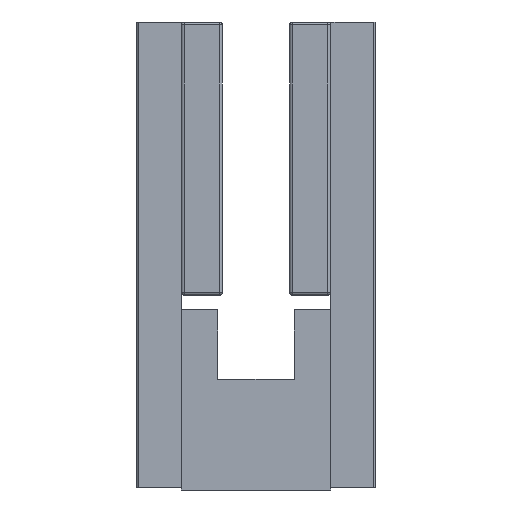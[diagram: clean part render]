
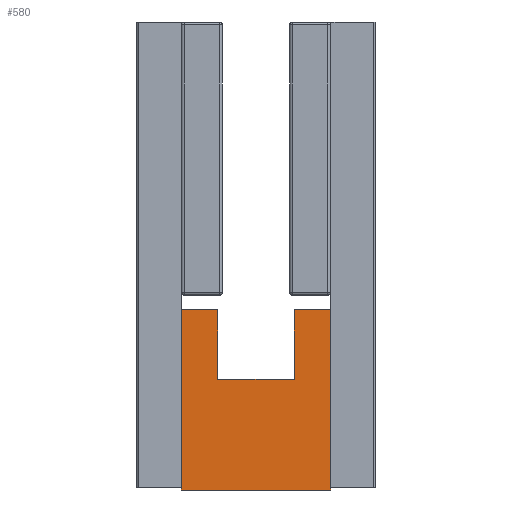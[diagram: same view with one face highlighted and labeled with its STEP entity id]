
A CAD part, left-side view. The second image highlights one B-rep face of the part: STEP entity #580.
In plain terms, the highlighted planar face has unit normal (-1, 0, 0).
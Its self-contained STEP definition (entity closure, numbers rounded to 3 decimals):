
#82 = CARTESIAN_POINT ( 'NONE',  ( -35.6, 2.575, 8.1 ) ) ;
#202 = ORIENTED_EDGE ( 'NONE', *, *, #3362, .F. ) ;
#290 = CARTESIAN_POINT ( 'NONE',  ( -35.6, -2.575, 3.4 ) ) ;
#376 = VERTEX_POINT ( 'NONE', #4822 ) ;
#505 = EDGE_CURVE ( 'NONE', #3587, #4986, #1902, .T. ) ;
#546 = LINE ( 'NONE', #2624, #2207 ) ;
#580 = ADVANCED_FACE ( 'NONE', ( #3822 ), #855, .F. ) ;
#678 = EDGE_CURVE ( 'NONE', #4726, #4922, #2348, .T. ) ;
#766 = ORIENTED_EDGE ( 'NONE', *, *, #2047, .T. ) ;
#801 = AXIS2_PLACEMENT_3D ( 'NONE', #870, #2092, #4965 ) ;
#855 = PLANE ( 'NONE',  #801 ) ;
#870 = CARTESIAN_POINT ( 'NONE',  ( -35.6, -5.075, 3.9 ) ) ;
#1241 = CARTESIAN_POINT ( 'NONE',  ( -35.6, -2.575, 8.1 ) ) ;
#1297 = CARTESIAN_POINT ( 'NONE',  ( -35.6, -5.075, -4.1 ) ) ;
#1626 = DIRECTION ( 'NONE',  ( 0., 0., -1. ) ) ;
#1685 = EDGE_CURVE ( 'NONE', #3587, #4210, #1896, .T. ) ;
#1733 = DIRECTION ( 'NONE',  ( 0., 1., 0. ) ) ;
#1754 = CARTESIAN_POINT ( 'NONE',  ( -35.6, -2.575, 8.1 ) ) ;
#1763 = VECTOR ( 'NONE', #3691, 1000. ) ;
#1879 = DIRECTION ( 'NONE',  ( 0., -1., 0. ) ) ;
#1896 = LINE ( 'NONE', #1754, #3238 ) ;
#1902 = LINE ( 'NONE', #1241, #2738 ) ;
#1997 = CARTESIAN_POINT ( 'NONE',  ( -35.6, 5.075, 3.9 ) ) ;
#2008 = EDGE_CURVE ( 'NONE', #3268, #2440, #3104, .T. ) ;
#2047 = EDGE_CURVE ( 'NONE', #376, #4922, #4446, .T. ) ;
#2092 = DIRECTION ( 'NONE',  ( 1., 0., 0. ) ) ;
#2207 = VECTOR ( 'NONE', #1879, 1000. ) ;
#2327 = ORIENTED_EDGE ( 'NONE', *, *, #2008, .F. ) ;
#2332 = CARTESIAN_POINT ( 'NONE',  ( -35.6, 2.575, 8.1 ) ) ;
#2348 = LINE ( 'NONE', #1297, #4396 ) ;
#2440 = VERTEX_POINT ( 'NONE', #5159 ) ;
#2568 = ORIENTED_EDGE ( 'NONE', *, *, #505, .F. ) ;
#2624 = CARTESIAN_POINT ( 'NONE',  ( -35.6, 5.075, 8.1 ) ) ;
#2660 = VECTOR ( 'NONE', #1626, 1000. ) ;
#2709 = CARTESIAN_POINT ( 'NONE',  ( -35.6, 5.075, -4.1 ) ) ;
#2738 = VECTOR ( 'NONE', #4052, 1000. ) ;
#2779 = ORIENTED_EDGE ( 'NONE', *, *, #1685, .T. ) ;
#2783 = CARTESIAN_POINT ( 'NONE',  ( -35.6, -5.075, 8.1 ) ) ;
#2840 = CARTESIAN_POINT ( 'NONE',  ( -35.6, -2.575, 3.4 ) ) ;
#2843 = VECTOR ( 'NONE', #3287, 1000. ) ;
#2869 = CARTESIAN_POINT ( 'NONE',  ( -35.6, -5.075, 3.9 ) ) ;
#3104 = LINE ( 'NONE', #2332, #3428 ) ;
#3121 = EDGE_CURVE ( 'NONE', #4986, #4726, #5160, .T. ) ;
#3191 = DIRECTION ( 'NONE',  ( 0., 0., -1. ) ) ;
#3204 = ORIENTED_EDGE ( 'NONE', *, *, #3121, .F. ) ;
#3238 = VECTOR ( 'NONE', #4211, 1000. ) ;
#3268 = VERTEX_POINT ( 'NONE', #82 ) ;
#3287 = DIRECTION ( 'NONE',  ( 0., -1., 0. ) ) ;
#3362 = EDGE_CURVE ( 'NONE', #376, #3268, #546, .T. ) ;
#3428 = VECTOR ( 'NONE', #3191, 1000. ) ;
#3532 = ORIENTED_EDGE ( 'NONE', *, *, #4325, .F. ) ;
#3587 = VERTEX_POINT ( 'NONE', #5176 ) ;
#3691 = DIRECTION ( 'NONE',  ( 0., 0., -1. ) ) ;
#3822 = FACE_OUTER_BOUND ( 'NONE', #5291, .T. ) ;
#3889 = CARTESIAN_POINT ( 'NONE',  ( -35.6, -5.075, -4.1 ) ) ;
#4052 = DIRECTION ( 'NONE',  ( 0., -1., 0. ) ) ;
#4210 = VERTEX_POINT ( 'NONE', #290 ) ;
#4211 = DIRECTION ( 'NONE',  ( 0., 0., -1. ) ) ;
#4325 = EDGE_CURVE ( 'NONE', #2440, #4210, #4893, .T. ) ;
#4396 = VECTOR ( 'NONE', #1733, 1000. ) ;
#4446 = LINE ( 'NONE', #1997, #2660 ) ;
#4726 = VERTEX_POINT ( 'NONE', #3889 ) ;
#4822 = CARTESIAN_POINT ( 'NONE',  ( -35.6, 5.075, 8.1 ) ) ;
#4893 = LINE ( 'NONE', #2840, #2843 ) ;
#4922 = VERTEX_POINT ( 'NONE', #2709 ) ;
#4965 = DIRECTION ( 'NONE',  ( 0., 1., 0. ) ) ;
#4986 = VERTEX_POINT ( 'NONE', #2783 ) ;
#5135 = ORIENTED_EDGE ( 'NONE', *, *, #678, .F. ) ;
#5159 = CARTESIAN_POINT ( 'NONE',  ( -35.6, 2.575, 3.4 ) ) ;
#5160 = LINE ( 'NONE', #2869, #1763 ) ;
#5176 = CARTESIAN_POINT ( 'NONE',  ( -35.6, -2.575, 8.1 ) ) ;
#5291 = EDGE_LOOP ( 'NONE', ( #3532, #2327, #202, #766, #5135, #3204, #2568, #2779 ) ) ;
